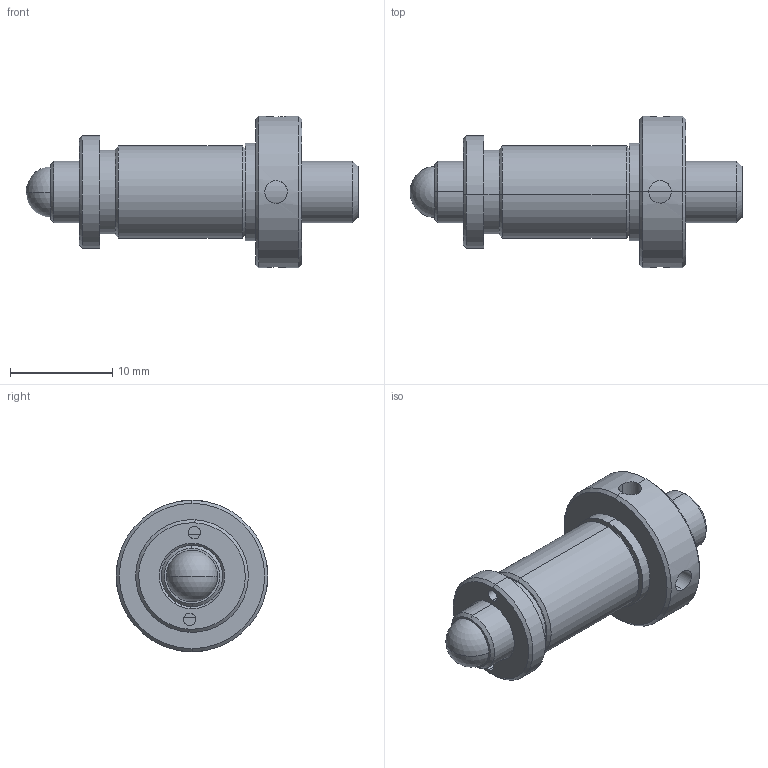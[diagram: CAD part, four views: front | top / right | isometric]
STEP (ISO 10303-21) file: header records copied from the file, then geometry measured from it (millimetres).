
FILE_DESCRIPTION (( 'STEP AP203' ), '1' );
FILE_NAME ('AUS25.4-3.0.STEP', '2021-05-07T05:44:41', ( '' ), ( '' ), 'SwSTEP 2.0', 'SolidWorks 2016', '' );
FILE_SCHEMA (( 'CONFIG_CONTROL_DESIGN' ));
Length unit declared in the file: millimetre
Products named in the file (1): AUS25.4-3.0
Bounding box: 32.41 x 14.8 x 14.8 mm (x, y, z)
Surface area: 1842.2 mm2 (no closed solid volume)
Topology: 0 solids, 4 shells, 56 faces, 143 edges, 93 vertices
Faces by surface type: cylinder 24, cone 16, plane 14, sphere 2
Entity records: 1860 total; most frequent: CARTESIAN_POINT 425, DIRECTION 306, ORIENTED_EDGE 248, EDGE_CURVE 138, AXIS2_PLACEMENT_3D 123, VERTEX_POINT 90, EDGE_LOOP 68, CIRCLE 66
